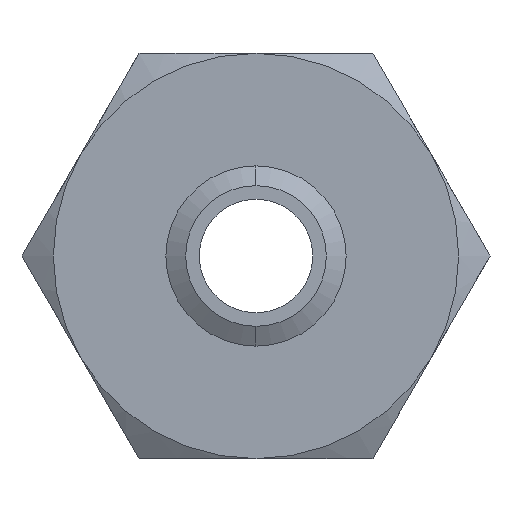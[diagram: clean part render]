
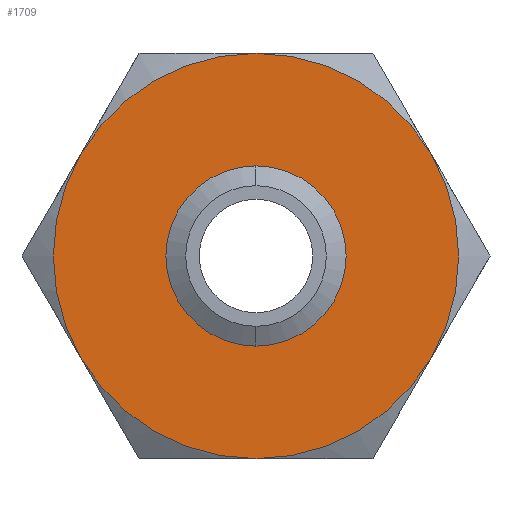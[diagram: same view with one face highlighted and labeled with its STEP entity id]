
A CAD part, front view. The second image highlights one B-rep face of the part: STEP entity #1709.
In plain terms, the highlighted planar face has unit normal (0, -1, 0).
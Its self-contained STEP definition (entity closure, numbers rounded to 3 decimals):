
#99 = AXIS2_PLACEMENT_3D ( 'NONE', #102, #104, #100 ) ;
#100 = DIRECTION ( 'NONE',  ( 0., 0., 1. ) ) ;
#102 = CARTESIAN_POINT ( 'NONE',  ( 0., 0., 0. ) ) ;
#104 = DIRECTION ( 'NONE',  ( 0., 1., 0. ) ) ;
#122 = VERTEX_POINT ( 'NONE', #341 ) ;
#341 = CARTESIAN_POINT ( 'NONE',  ( 0., 0., -8.673 ) ) ;
#387 = CIRCLE ( 'NONE', #99, 25. ) ;
#770 = CARTESIAN_POINT ( 'NONE',  ( -21.651, 0., 12.5 ) ) ;
#833 = CARTESIAN_POINT ( 'NONE',  ( 0., 0., 8.673 ) ) ;
#838 = DIRECTION ( 'NONE',  ( 0., 0., -1. ) ) ;
#839 = DIRECTION ( 'NONE',  ( 0., -1., 0. ) ) ;
#840 = CARTESIAN_POINT ( 'NONE',  ( 0., 0., 0. ) ) ;
#841 = AXIS2_PLACEMENT_3D ( 'NONE', #840, #839, #838 ) ;
#842 = CIRCLE ( 'NONE', #841, 8.673 ) ;
#847 = CARTESIAN_POINT ( 'NONE',  ( 21.651, 0., 12.5 ) ) ;
#848 = CARTESIAN_POINT ( 'NONE',  ( 0., 0., 25. ) ) ;
#849 = DIRECTION ( 'NONE',  ( 0., 0., 1. ) ) ;
#850 = DIRECTION ( 'NONE',  ( 0., 1., 0. ) ) ;
#851 = CARTESIAN_POINT ( 'NONE',  ( 0., 0., 0. ) ) ;
#852 = AXIS2_PLACEMENT_3D ( 'NONE', #851, #850, #849 ) ;
#853 = CIRCLE ( 'NONE', #852, 25. ) ;
#903 = DIRECTION ( 'NONE',  ( 0., 0., 1. ) ) ;
#904 = DIRECTION ( 'NONE',  ( 0., 1., 0. ) ) ;
#905 = CARTESIAN_POINT ( 'NONE',  ( 14.434, 0., -25. ) ) ;
#906 = AXIS2_PLACEMENT_3D ( 'NONE', #905, #904, #903 ) ;
#907 = PLANE ( 'NONE',  #906 ) ;
#908 = FACE_BOUND ( 'NONE', #1828, .T. ) ;
#909 = FACE_OUTER_BOUND ( 'NONE', #1708, .T. ) ;
#1093 = CARTESIAN_POINT ( 'NONE',  ( -21.651, 0., -12.5 ) ) ;
#1098 = CARTESIAN_POINT ( 'NONE',  ( 21.651, 0., -12.5 ) ) ;
#1099 = DIRECTION ( 'NONE',  ( 0., 0., 1. ) ) ;
#1100 = DIRECTION ( 'NONE',  ( 0., 1., 0. ) ) ;
#1101 = CARTESIAN_POINT ( 'NONE',  ( 0., 0., 0. ) ) ;
#1102 = AXIS2_PLACEMENT_3D ( 'NONE', #1101, #1100, #1099 ) ;
#1103 = CIRCLE ( 'NONE', #1102, 25. ) ;
#1104 = DIRECTION ( 'NONE',  ( 0., 0., -1. ) ) ;
#1105 = DIRECTION ( 'NONE',  ( 0., -1., 0. ) ) ;
#1106 = CARTESIAN_POINT ( 'NONE',  ( 0., 0., 0. ) ) ;
#1107 = AXIS2_PLACEMENT_3D ( 'NONE', #1106, #1105, #1104 ) ;
#1108 = CIRCLE ( 'NONE', #1107, 8.673 ) ;
#1109 = CARTESIAN_POINT ( 'NONE',  ( 0., 0., -25. ) ) ;
#1110 = DIRECTION ( 'NONE',  ( 0., 0., 1. ) ) ;
#1111 = DIRECTION ( 'NONE',  ( 0., 1., 0. ) ) ;
#1112 = CARTESIAN_POINT ( 'NONE',  ( 0., 0., 0. ) ) ;
#1113 = AXIS2_PLACEMENT_3D ( 'NONE', #1112, #1111, #1110 ) ;
#1114 = CIRCLE ( 'NONE', #1113, 25. ) ;
#1164 = DIRECTION ( 'NONE',  ( 0., 0., 1. ) ) ;
#1165 = DIRECTION ( 'NONE',  ( 0., 1., 0. ) ) ;
#1166 = CARTESIAN_POINT ( 'NONE',  ( 0., 0., 0. ) ) ;
#1167 = AXIS2_PLACEMENT_3D ( 'NONE', #1166, #1165, #1164 ) ;
#1168 = CIRCLE ( 'NONE', #1167, 25. ) ;
#1206 = DIRECTION ( 'NONE',  ( 0., 0., 1. ) ) ;
#1207 = DIRECTION ( 'NONE',  ( 0., 1., 0. ) ) ;
#1208 = CARTESIAN_POINT ( 'NONE',  ( 0., 0., 0. ) ) ;
#1209 = AXIS2_PLACEMENT_3D ( 'NONE', #1208, #1207, #1206 ) ;
#1211 = CIRCLE ( 'NONE', #1209, 25. ) ;
#1648 = VERTEX_POINT ( 'NONE', #770 ) ;
#1678 = EDGE_CURVE ( 'NONE', #122, #1680, #842, .T. ) ;
#1680 = VERTEX_POINT ( 'NONE', #833 ) ;
#1701 = EDGE_CURVE ( 'NONE', #1648, #1702, #853, .T. ) ;
#1702 = VERTEX_POINT ( 'NONE', #848 ) ;
#1703 = ORIENTED_EDGE ( 'NONE', *, *, #1701, .F. ) ;
#1704 = VERTEX_POINT ( 'NONE', #847 ) ;
#1705 = EDGE_CURVE ( 'NONE', #1702, #1704, #387, .T. ) ;
#1706 = ORIENTED_EDGE ( 'NONE', *, *, #1705, .F. ) ;
#1708 = EDGE_LOOP ( 'NONE', ( #1706, #1703, #1868, #1825, #1860, #1854 ) ) ;
#1709 = ADVANCED_FACE ( 'NONE', ( #909, #908 ), #907, .F. ) ;
#1813 = ORIENTED_EDGE ( 'NONE', *, *, #1816, .F. ) ;
#1814 = ORIENTED_EDGE ( 'NONE', *, *, #1678, .F. ) ;
#1815 = EDGE_CURVE ( 'NONE', #1827, #1648, #1114, .T. ) ;
#1816 = EDGE_CURVE ( 'NONE', #1680, #122, #1108, .T. ) ;
#1818 = VERTEX_POINT ( 'NONE', #1109 ) ;
#1819 = EDGE_CURVE ( 'NONE', #1820, #1818, #1103, .T. ) ;
#1820 = VERTEX_POINT ( 'NONE', #1098 ) ;
#1825 = ORIENTED_EDGE ( 'NONE', *, *, #1859, .F. ) ;
#1827 = VERTEX_POINT ( 'NONE', #1093 ) ;
#1828 = EDGE_LOOP ( 'NONE', ( #1814, #1813 ) ) ;
#1854 = ORIENTED_EDGE ( 'NONE', *, *, #1855, .F. ) ;
#1855 = EDGE_CURVE ( 'NONE', #1704, #1820, #1168, .T. ) ;
#1859 = EDGE_CURVE ( 'NONE', #1818, #1827, #1211, .T. ) ;
#1860 = ORIENTED_EDGE ( 'NONE', *, *, #1819, .F. ) ;
#1868 = ORIENTED_EDGE ( 'NONE', *, *, #1815, .F. ) ;
